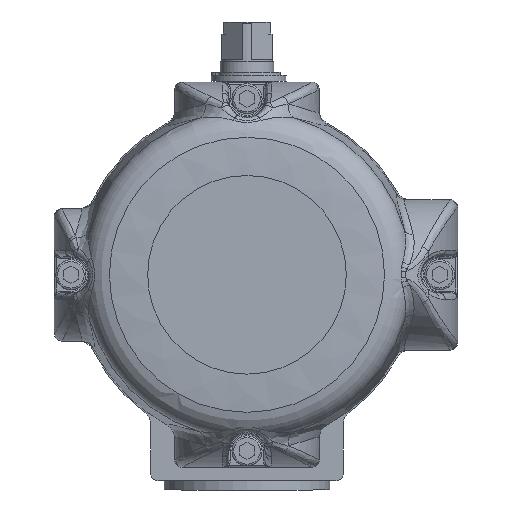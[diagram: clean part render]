
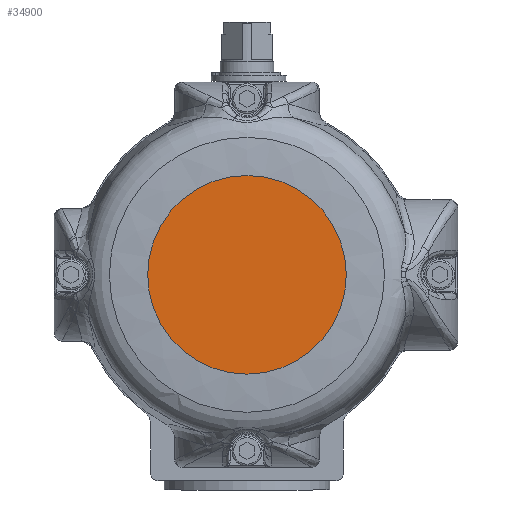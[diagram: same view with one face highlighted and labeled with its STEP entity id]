
A CAD part, left-side view. The second image highlights one B-rep face of the part: STEP entity #34900.
In plain terms, the highlighted planar face has unit normal (-1, 0, 0).
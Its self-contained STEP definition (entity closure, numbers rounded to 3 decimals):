
#1270=PLANE('',#37427);
#2158=FACE_OUTER_BOUND('',#4271,.T.);
#4271=EDGE_LOOP('',(#23331));
#6434=CIRCLE('',#37426,33.);
#13284=VERTEX_POINT('',#54612);
#16995=EDGE_CURVE('',#13284,#13284,#6434,.T.);
#23331=ORIENTED_EDGE('',*,*,#16995,.F.);
#34900=ADVANCED_FACE('',(#2158),#1270,.T.);
#37426=AXIS2_PLACEMENT_3D('',#54614,#42561,#42562);
#37427=AXIS2_PLACEMENT_3D('',#54615,#42563,#42564);
#42561=DIRECTION('center_axis',(1.,0.,0.));
#42562=DIRECTION('ref_axis',(0.,-1.,0.));
#42563=DIRECTION('center_axis',(-1.,0.,0.));
#42564=DIRECTION('ref_axis',(0.,0.,
1.));
#54612=CARTESIAN_POINT('',(-104.75,0.,-31.));
#54614=CARTESIAN_POINT('Origin',(-104.75,0.,-64.));
#54615=CARTESIAN_POINT('Origin',(-104.75,-16.5,-64.));
